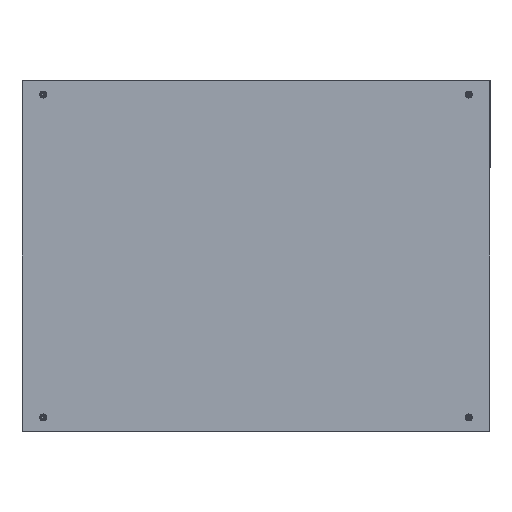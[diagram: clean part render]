
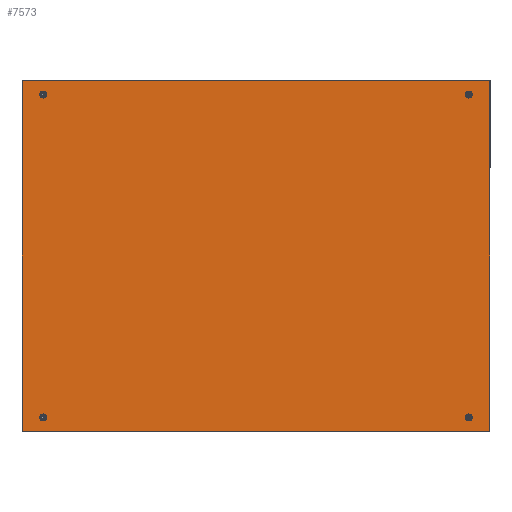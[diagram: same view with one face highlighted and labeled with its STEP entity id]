
A CAD part, left-side view. The second image highlights one B-rep face of the part: STEP entity #7573.
In plain terms, the highlighted planar face has unit normal (-1, 0, 0).
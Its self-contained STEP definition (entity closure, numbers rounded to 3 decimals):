
#989=LINE('',#13776,#1710);
#990=LINE('',#13779,#1711);
#991=LINE('',#13781,#1712);
#992=LINE('',#13783,#1713);
#1710=VECTOR('',#11437,1000.);
#1711=VECTOR('',#11438,1000.);
#1712=VECTOR('',#11439,1000.);
#1713=VECTOR('',#11440,1000.);
#3171=ORIENTED_EDGE('',*,*,#4640,.T.);
#3172=ORIENTED_EDGE('',*,*,#4641,.T.);
#3173=ORIENTED_EDGE('',*,*,#4642,.T.);
#3174=ORIENTED_EDGE('',*,*,#4643,.T.);
#3175=ORIENTED_EDGE('',*,*,#4644,.F.);
#3176=ORIENTED_EDGE('',*,*,#4517,.F.);
#3177=ORIENTED_EDGE('',*,*,#4515,.F.);
#3178=ORIENTED_EDGE('',*,*,#4513,.F.);
#4513=EDGE_CURVE('',#5357,#5357,#5832,.T.);
#4515=EDGE_CURVE('',#5359,#5359,#5834,.T.);
#4517=EDGE_CURVE('',#5361,#5361,#5836,.T.);
#4640=EDGE_CURVE('',#5452,#5453,#989,.T.);
#4641=EDGE_CURVE('',#5453,#5454,#990,.T.);
#4642=EDGE_CURVE('',#5454,#5455,#991,.T.);
#4643=EDGE_CURVE('',#5455,#5452,#992,.T.);
#4644=EDGE_CURVE('',#5456,#5456,#5845,.T.);
#5357=VERTEX_POINT('',#13528);
#5359=VERTEX_POINT('',#13533);
#5361=VERTEX_POINT('',#13538);
#5452=VERTEX_POINT('',#13777);
#5453=VERTEX_POINT('',#13778);
#5454=VERTEX_POINT('',#13780);
#5455=VERTEX_POINT('',#13782);
#5456=VERTEX_POINT('',#13785);
#5832=CIRCLE('',#9720,5.125);
#5834=CIRCLE('',#9723,5.125);
#5836=CIRCLE('',#9726,5.125);
#5845=CIRCLE('',#9760,5.125);
#6247=EDGE_LOOP('',(#3171,#3172,#3173,#3174));
#6248=EDGE_LOOP('',(#3175));
#6249=EDGE_LOOP('',(#3176));
#6250=EDGE_LOOP('',(#3177));
#6251=EDGE_LOOP('',(#3178));
#6794=FACE_BOUND('',#6247,.T.);
#6795=FACE_BOUND('',#6248,.T.);
#6796=FACE_BOUND('',#6249,.T.);
#6797=FACE_BOUND('',#6250,.T.);
#6798=FACE_BOUND('',#6251,.T.);
#7206=PLANE('',#9759);
#7573=ADVANCED_FACE('',(#6794,#6795,#6796,#6797,#6798),#7206,.T.);
#9720=AXIS2_PLACEMENT_3D('',#13527,#11243,#11244);
#9723=AXIS2_PLACEMENT_3D('',#13532,#11249,#11250);
#9726=AXIS2_PLACEMENT_3D('',#13537,#11255,#11256);
#9759=AXIS2_PLACEMENT_3D('',#13775,#11435,#11436);
#9760=AXIS2_PLACEMENT_3D('',#13784,#11441,#11442);
#11243=DIRECTION('',(-1.,0.,0.));
#11244=DIRECTION('',(0.,-1.,0.));
#11249=DIRECTION('',(-1.,0.,0.));
#11250=DIRECTION('',(0.,-1.,0.));
#11255=DIRECTION('',(-1.,0.,0.));
#11256=DIRECTION('',(0.,-1.,0.));
#11435=DIRECTION('',(-1.,0.,0.));
#11436=DIRECTION('',(0.,-1.,0.));
#11437=DIRECTION('',(0.,0.,-1.));
#11438=DIRECTION('',(0.,-1.,0.));
#11439=DIRECTION('',(0.,0.,1.));
#11440=DIRECTION('',(0.,1.,0.));
#11441=DIRECTION('',(-1.,0.,0.));
#11442=DIRECTION('',(0.,-1.,0.));
#13527=CARTESIAN_POINT('',(-1.5,455.,-345.));
#13528=CARTESIAN_POINT('',(-1.5,449.875,-345.));
#13532=CARTESIAN_POINT('',(-1.5,455.,345.));
#13533=CARTESIAN_POINT('',(-1.5,449.875,345.));
#13537=CARTESIAN_POINT('',(-1.5,-455.,-345.));
#13538=CARTESIAN_POINT('',(-1.5,-460.125,-345.));
#13775=CARTESIAN_POINT('',(-1.5,0.,0.));
#13776=CARTESIAN_POINT('',(-1.5,500.,0.));
#13777=CARTESIAN_POINT('',(-1.5,500.,375.));
#13778=CARTESIAN_POINT('',(-1.5,500.,-375.));
#13779=CARTESIAN_POINT('',(-1.5,0.,-375.));
#13780=CARTESIAN_POINT('',(-1.5,-500.,-375.));
#13781=CARTESIAN_POINT('',(-1.5,-500.,0.));
#13782=CARTESIAN_POINT('',(-1.5,-500.,375.));
#13783=CARTESIAN_POINT('',(-1.5,0.,375.));
#13784=CARTESIAN_POINT('',(-1.5,-455.,345.));
#13785=CARTESIAN_POINT('',(-1.5,-460.125,345.));
